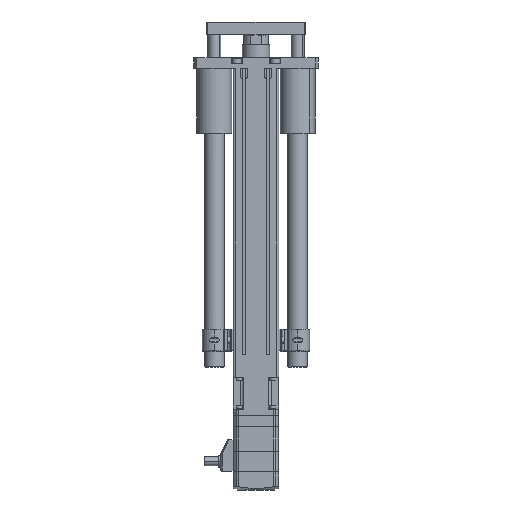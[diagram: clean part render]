
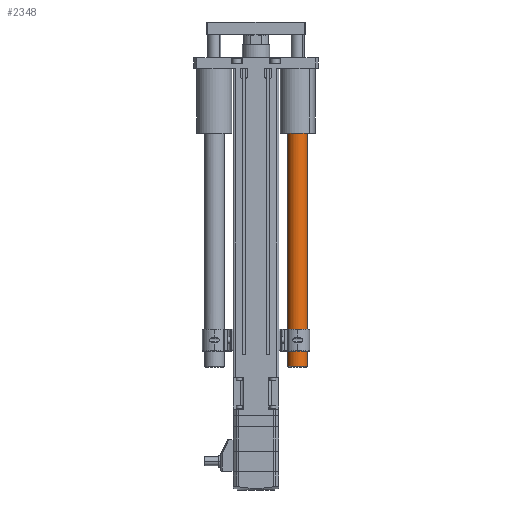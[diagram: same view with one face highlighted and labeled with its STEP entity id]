
A CAD part, front view. The second image highlights one B-rep face of the part: STEP entity #2348.
In plain terms, the highlighted cylindrical face has radius 9 mm (diameter 18 mm), a partial arc.
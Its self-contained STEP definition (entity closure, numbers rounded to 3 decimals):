
#2348 = ADVANCED_FACE ( 'NONE', ( #9434, #9596 ), #9863, .T. ) ;
#2482 = EDGE_LOOP ( 'NONE', ( #7292, #7338, #7300, #7325, #7293, #7294, #7310, #7282 ) ) ;
#2536 = EDGE_LOOP ( 'NONE', ( #7285, #7336, #7326, #7297 ) ) ;
#4203 = EDGE_CURVE ( 'NONE', #14346, #25939, #22973, .T. ) ;
#4205 = EDGE_CURVE ( 'NONE', #35104, #35242, #22875, .T. ) ;
#4206 = EDGE_CURVE ( 'NONE', #14309, #35050, #21137, .T. ) ;
#4207 = EDGE_CURVE ( 'NONE', #26090, #14309, #21123, .T. ) ;
#4208 = EDGE_CURVE ( 'NONE', #14710, #25939, #21132, .T. ) ;
#4209 = EDGE_CURVE ( 'NONE', #26090, #35253, #22781, .T. ) ;
#4210 = EDGE_CURVE ( 'NONE', #14285, #14710, #22958, .T. ) ;
#4211 = EDGE_CURVE ( 'NONE', #14285, #14346, #21101, .T. ) ;
#6996 = AXIS2_PLACEMENT_3D ( 'NONE', #7365, #7407, #7374 ) ;
#7282 = ORIENTED_EDGE ( 'NONE', *, *, #4209, .T. ) ;
#7285 = ORIENTED_EDGE ( 'NONE', *, *, #4210, .T. ) ;
#7292 = ORIENTED_EDGE ( 'NONE', *, *, #18177, .F. ) ;
#7293 = ORIENTED_EDGE ( 'NONE', *, *, #18102, .F. ) ;
#7294 = ORIENTED_EDGE ( 'NONE', *, *, #4206, .F. ) ;
#7297 = ORIENTED_EDGE ( 'NONE', *, *, #4211, .F. ) ;
#7300 = ORIENTED_EDGE ( 'NONE', *, *, #18089, .T. ) ;
#7310 = ORIENTED_EDGE ( 'NONE', *, *, #4207, .F. ) ;
#7325 = ORIENTED_EDGE ( 'NONE', *, *, #4205, .F. ) ;
#7326 = ORIENTED_EDGE ( 'NONE', *, *, #4203, .F. ) ;
#7336 = ORIENTED_EDGE ( 'NONE', *, *, #4208, .T. ) ;
#7338 = ORIENTED_EDGE ( 'NONE', *, *, #15346, .T. ) ;
#7365 = CARTESIAN_POINT ( 'NONE',  ( 38., 0., 3.6 ) ) ;
#7374 = DIRECTION ( 'NONE',  ( 1., 0., 0. ) ) ;
#7407 = DIRECTION ( 'NONE',  ( 0., 0., 1. ) ) ;
#8117 = AXIS2_PLACEMENT_3D ( 'NONE', #22002, #21893, #22000 ) ;
#8152 = CIRCLE ( 'NONE', #8117, 9. ) ;
#9434 = FACE_OUTER_BOUND ( 'NONE', #2482, .T. ) ;
#9596 = FACE_BOUND ( 'NONE', #2536, .T. ) ;
#9863 = CYLINDRICAL_SURFACE ( 'NONE', #6996, 9. ) ;
#14285 = VERTEX_POINT ( 'NONE', #21660 ) ;
#14309 = VERTEX_POINT ( 'NONE', #22025 ) ;
#14346 = VERTEX_POINT ( 'NONE', #22310 ) ;
#14710 = VERTEX_POINT ( 'NONE', #21202 ) ;
#15346 = EDGE_CURVE ( 'NONE', #35023, #34813, #8152, .T. ) ;
#18089 = EDGE_CURVE ( 'NONE', #34813, #35242, #33038, .T. ) ;
#18102 = EDGE_CURVE ( 'NONE', #35050, #35104, #33050, .T. ) ;
#18177 = EDGE_CURVE ( 'NONE', #35023, #35253, #33080, .T. ) ;
#19890 = CARTESIAN_POINT ( 'NONE',  ( 47., 0., 4.6 ) ) ;
#20083 = CARTESIAN_POINT ( 'NONE',  ( 29., 0., 4.6 ) ) ;
#20110 = CARTESIAN_POINT ( 'NONE',  ( 29., 0., 33.809 ) ) ;
#20162 = CARTESIAN_POINT ( 'NONE',  ( 29., 0., 217.6 ) ) ;
#20297 = CARTESIAN_POINT ( 'NONE',  ( 47., 0., 217.6 ) ) ;
#20306 = CARTESIAN_POINT ( 'NONE',  ( 29., 0., 28.8 ) ) ;
#21101 =( BOUNDED_CURVE ( )  B_SPLINE_CURVE ( 3, ( #28985, #28977, #29207, #29208 ),
 .UNSPECIFIED., .F., .T. ) 
 B_SPLINE_CURVE_WITH_KNOTS ( ( 4, 4 ),
 ( 4.81, 4.824 ),
 .UNSPECIFIED. ) 
 CURVE ( )  GEOMETRIC_REPRESENTATION_ITEM ( )  RATIONAL_B_SPLINE_CURVE ( ( 1., 1., 1., 1. ) ) 
 REPRESENTATION_ITEM ( '' )  );
#21123 =( BOUNDED_CURVE ( )  B_SPLINE_CURVE ( 3, ( #29044, #29055, #29090, #29050 ),
 .UNSPECIFIED., .F., .T. ) 
 B_SPLINE_CURVE_WITH_KNOTS ( ( 4, 4 ),
 ( 4.81, 4.824 ),
 .UNSPECIFIED. ) 
 CURVE ( )  GEOMETRIC_REPRESENTATION_ITEM ( )  RATIONAL_B_SPLINE_CURVE ( ( 1., 1., 1., 1. ) ) 
 REPRESENTATION_ITEM ( '' )  );
#21132 =( BOUNDED_CURVE ( )  B_SPLINE_CURVE ( 3, ( #29053, #29039, #29030, #29028 ),
 .UNSPECIFIED., .F., .T. ) 
 B_SPLINE_CURVE_WITH_KNOTS ( ( 4, 4 ),
 ( 4.81, 4.824 ),
 .UNSPECIFIED. ) 
 CURVE ( )  GEOMETRIC_REPRESENTATION_ITEM ( )  RATIONAL_B_SPLINE_CURVE ( ( 1., 1., 1., 1. ) ) 
 REPRESENTATION_ITEM ( '' )  );
#21137 =( BOUNDED_CURVE ( )  B_SPLINE_CURVE ( 3, ( #29101, #29110, #29099, #29095 ),
 .UNSPECIFIED., .F., .T. ) 
 B_SPLINE_CURVE_WITH_KNOTS ( ( 4, 4 ),
 ( 3.03, 3.142 ),
 .UNSPECIFIED. ) 
 CURVE ( )  GEOMETRIC_REPRESENTATION_ITEM ( )  RATIONAL_B_SPLINE_CURVE ( ( 1., 0.999, 0.999, 1. ) ) 
 REPRESENTATION_ITEM ( '' )  );
#21202 = CARTESIAN_POINT ( 'NONE',  ( 41.722, -8.195, 28.8 ) ) ;
#21660 = CARTESIAN_POINT ( 'NONE',  ( 43.236, -7.32, 28.8 ) ) ;
#21893 = DIRECTION ( 'NONE',  ( 0., 0., 1. ) ) ;
#22000 = DIRECTION ( 'NONE',  ( -1., 0., 0. ) ) ;
#22002 = CARTESIAN_POINT ( 'NONE',  ( 38., 0., 4.6 ) ) ;
#22025 = CARTESIAN_POINT ( 'NONE',  ( 29.056, -1.006, 33.811 ) ) ;
#22310 = CARTESIAN_POINT ( 'NONE',  ( 43.338, -7.246, 33.6 ) ) ;
#22661 = AXIS2_PLACEMENT_3D ( 'NONE', #29218, #29010, #28989 ) ;
#22768 = AXIS2_PLACEMENT_3D ( 'NONE', #28974, #29026, #29018 ) ;
#22781 = CIRCLE ( 'NONE', #22768, 9. ) ;
#22875 = CIRCLE ( 'NONE', #22993, 9. ) ;
#22958 = CIRCLE ( 'NONE', #22661, 9. ) ;
#22969 = AXIS2_PLACEMENT_3D ( 'NONE', #29112, #29119, #29116 ) ;
#22973 = CIRCLE ( 'NONE', #22969, 9. ) ;
#22993 = AXIS2_PLACEMENT_3D ( 'NONE', #29107, #29102, #29104 ) ;
#25059 = CARTESIAN_POINT ( 'NONE',  ( 29., 0., 3.6 ) ) ;
#25393 = DIRECTION ( 'NONE',  ( 0., 0., 1. ) ) ;
#25484 = DIRECTION ( 'NONE',  ( 0., 0., 1. ) ) ;
#25500 = CARTESIAN_POINT ( 'NONE',  ( 47., 0., 3.6 ) ) ;
#25939 = VERTEX_POINT ( 'NONE', #32468 ) ;
#26090 = VERTEX_POINT ( 'NONE', #31851 ) ;
#28974 = CARTESIAN_POINT ( 'NONE',  ( 38., 0., 28.8 ) ) ;
#28977 = CARTESIAN_POINT ( 'NONE',  ( 43.27, -7.296, 30.401 ) ) ;
#28985 = CARTESIAN_POINT ( 'NONE',  ( 43.236, -7.32, 28.8 ) ) ;
#28989 = DIRECTION ( 'NONE',  ( 0., -1., 0. ) ) ;
#29010 = DIRECTION ( 'NONE',  ( 0., 0., -1. ) ) ;
#29018 = DIRECTION ( 'NONE',  ( 0., -1., 0. ) ) ;
#29026 = DIRECTION ( 'NONE',  ( 0., 0., -1. ) ) ;
#29028 = CARTESIAN_POINT ( 'NONE',  ( 41.606, -8.246, 33.6 ) ) ;
#29030 = CARTESIAN_POINT ( 'NONE',  ( 41.645, -8.229, 32.001 ) ) ;
#29039 = CARTESIAN_POINT ( 'NONE',  ( 41.683, -8.212, 30.401 ) ) ;
#29044 = CARTESIAN_POINT ( 'NONE',  ( 29.043, -0.874, 28.8 ) ) ;
#29050 = CARTESIAN_POINT ( 'NONE',  ( 29.056, -1.006, 33.811 ) ) ;
#29053 = CARTESIAN_POINT ( 'NONE',  ( 41.722, -8.195, 28.8 ) ) ;
#29055 = CARTESIAN_POINT ( 'NONE',  ( 29.047, -0.918, 30.472 ) ) ;
#29090 = CARTESIAN_POINT ( 'NONE',  ( 29.051, -0.962, 32.142 ) ) ;
#29095 = CARTESIAN_POINT ( 'NONE',  ( 29., 0., 33.809 ) ) ;
#29099 = CARTESIAN_POINT ( 'NONE',  ( 29., -0.336, 33.809 ) ) ;
#29101 = CARTESIAN_POINT ( 'NONE',  ( 29.056, -1.006, 33.811 ) ) ;
#29102 = DIRECTION ( 'NONE',  ( 0., 0., 1. ) ) ;
#29104 = DIRECTION ( 'NONE',  ( 0., -1., 0. ) ) ;
#29107 = CARTESIAN_POINT ( 'NONE',  ( 38., 0., 217.6 ) ) ;
#29110 = CARTESIAN_POINT ( 'NONE',  ( 29.019, -0.672, 33.81 ) ) ;
#29112 = CARTESIAN_POINT ( 'NONE',  ( 38., 0., 33.6 ) ) ;
#29116 = DIRECTION ( 'NONE',  ( 0.866, 0.5, 0. ) ) ;
#29119 = DIRECTION ( 'NONE',  ( 0., 0., -1. ) ) ;
#29207 = CARTESIAN_POINT ( 'NONE',  ( 43.304, -7.271, 32.001 ) ) ;
#29208 = CARTESIAN_POINT ( 'NONE',  ( 43.338, -7.246, 33.6 ) ) ;
#29218 = CARTESIAN_POINT ( 'NONE',  ( 38., 0., 28.8 ) ) ;
#29760 = VECTOR ( 'NONE', #25484, 1000. ) ;
#29775 = VECTOR ( 'NONE', #25393, 1000. ) ;
#29880 = VECTOR ( 'NONE', #34069, 1000. ) ;
#31851 = CARTESIAN_POINT ( 'NONE',  ( 29.043, -0.874, 28.8 ) ) ;
#32468 = CARTESIAN_POINT ( 'NONE',  ( 41.606, -8.246, 33.6 ) ) ;
#33038 = LINE ( 'NONE', #25500, #29760 ) ;
#33050 = LINE ( 'NONE', #25059, #29775 ) ;
#33080 = LINE ( 'NONE', #34104, #29880 ) ;
#34069 = DIRECTION ( 'NONE',  ( 0., 0., 1. ) ) ;
#34104 = CARTESIAN_POINT ( 'NONE',  ( 29., 0., 3.6 ) ) ;
#34813 = VERTEX_POINT ( 'NONE', #19890 ) ;
#35023 = VERTEX_POINT ( 'NONE', #20083 ) ;
#35050 = VERTEX_POINT ( 'NONE', #20110 ) ;
#35104 = VERTEX_POINT ( 'NONE', #20162 ) ;
#35242 = VERTEX_POINT ( 'NONE', #20297 ) ;
#35253 = VERTEX_POINT ( 'NONE', #20306 ) ;
